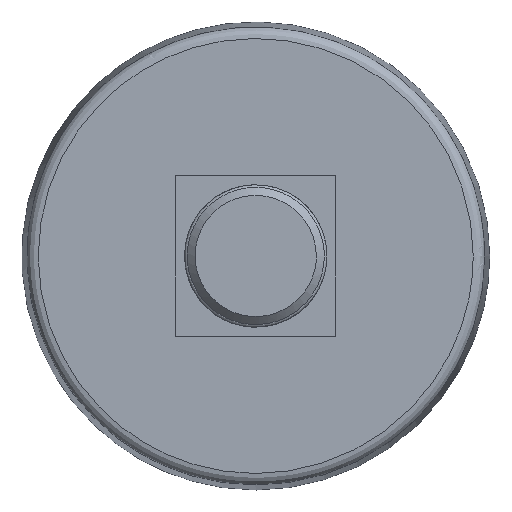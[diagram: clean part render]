
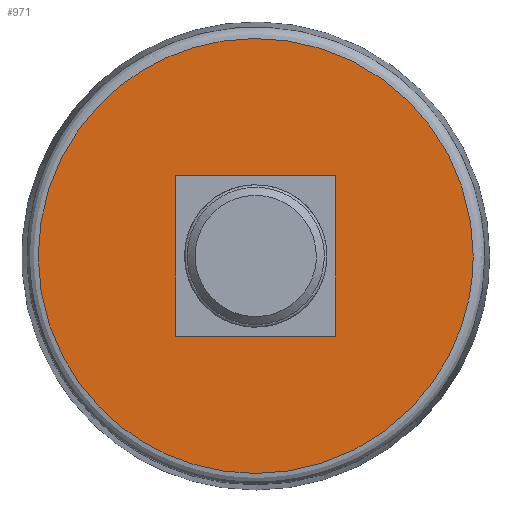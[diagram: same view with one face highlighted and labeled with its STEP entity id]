
A CAD part, front view. The second image highlights one B-rep face of the part: STEP entity #971.
In plain terms, the highlighted free-form (B-spline) face has degree [1, 1] with [2, 2] control points.
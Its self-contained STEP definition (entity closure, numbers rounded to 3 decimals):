
#590=CARTESIAN_POINT('V17',(-6.744,-47.477,
   7.0));
#591=VERTEX_POINT('V17',#590);
#592=CARTESIAN_POINT('V19',(7.256,-47.477,
   7.0));
#593=VERTEX_POINT('V19',#592);
#594=CARTESIAN_POINT('E27',(-6.744,-47.477,
   7.0));
#595=CARTESIAN_POINT('E27',(7.256,-47.477,
   7.0));
#596=QUASI_UNIFORM_CURVE('E27',1,(#594,#595),.POLYLINE_FORM.,.F.,.U.
   );
#597=EDGE_CURVE('E27',#591,#593,#596,.T.);
#626=CARTESIAN_POINT('V21',(7.256,-47.477,
   -7.0));
#627=VERTEX_POINT('V21',#626);
#628=CARTESIAN_POINT('V15',(-6.744,-47.477,
   -7.0));
#629=VERTEX_POINT('V15',#628);
#630=CARTESIAN_POINT('E31',(7.256,-47.477,
   -7.0));
#631=CARTESIAN_POINT('E31',(-6.744,-47.477,
   -7.0));
#632=QUASI_UNIFORM_CURVE('E31',1,(#630,#631),.POLYLINE_FORM.,.F.,.U.
   );
#633=EDGE_CURVE('E31',#627,#629,#632,.T.);
#662=CARTESIAN_POINT('E25',(-6.744,-47.477,
   -7.0));
#663=CARTESIAN_POINT('E25',(-6.744,-47.477,
   7.0));
#664=QUASI_UNIFORM_CURVE('E25',1,(#662,#663),.POLYLINE_FORM.,.F.,.U.
   );
#665=EDGE_CURVE('E25',#629,#591,#664,.T.);
#916=CARTESIAN_POINT('V9',(19.277,-47.477,
   0.0));
#917=VERTEX_POINT('V9',#916);
#933=CARTESIAN_POINT('E14',(19.277,-47.477,
   0.0));
#934=CARTESIAN_POINT('E14',(19.277,-47.477,
   32.944));
#935=CARTESIAN_POINT('E14',(-9.254,-47.477,
   16.472));
#936=CARTESIAN_POINT('E14',(-37.784,-47.477,
   0.));
#937=CARTESIAN_POINT('E14',(-9.254,-47.477,
   -16.472));
#938=CARTESIAN_POINT('E14',(19.277,-47.477,
   -32.944));
#939=CARTESIAN_POINT('E14',(19.277,-47.477,
   0.0));
#947=(BOUNDED_CURVE()B_SPLINE_CURVE(2,(#933,#934,#935,#936,#937,
   #938,#939),.CIRCULAR_ARC.,.T.,.U.)B_SPLINE_CURVE_WITH_KNOTS((3,
   2,2,3),(0.0,34.86,69.721,
   104.581),.UNSPECIFIED.)CURVE()
   GEOMETRIC_REPRESENTATION_ITEM()RATIONAL_B_SPLINE_CURVE((1.0,
   0.5,1.0,0.5,1.0,0.5,1.0)
   )REPRESENTATION_ITEM('E14'));
#948=EDGE_CURVE('E14',#917,#917,#947,.T.);
#953=CARTESIAN_POINT('F15',(21.179,-47.477,
   -20.922));
#954=CARTESIAN_POINT('F15',(21.179,-47.477,
   20.922));
#955=CARTESIAN_POINT('F15',(-20.666,-47.477,
   -20.922));
#956=CARTESIAN_POINT('F15',(-20.666,-47.477,
   20.922));
#957=QUASI_UNIFORM_SURFACE('F15',1,1,((#953,#955),(#954,#956)),
   .PLANE_SURF.,.F.,.F.,.U.);
#958=ORIENTED_EDGE('F7',*,*,#948,.T.);
#959=EDGE_LOOP('F15',(#958));
#960=FACE_OUTER_BOUND('F15',#959,.T.);
#961=ORIENTED_EDGE('E25',*,*,#665,.T.);
#962=ORIENTED_EDGE('E27',*,*,#597,.T.);
#963=CARTESIAN_POINT('E29',(7.256,-47.477,
   7.0));
#964=CARTESIAN_POINT('E29',(7.256,-47.477,
   -7.0));
#965=QUASI_UNIFORM_CURVE('E29',1,(#963,#964),.POLYLINE_FORM.,.F.,.U.
   );
#966=EDGE_CURVE('E29',#593,#627,#965,.T.);
#967=ORIENTED_EDGE('E29',*,*,#966,.T.);
#968=ORIENTED_EDGE('E31',*,*,#633,.T.);
#969=EDGE_LOOP('F15',(#961,#962,#967,#968));
#970=FACE_BOUND('F15',#969,.T.);
#971=ADVANCED_FACE('F15',(#960,#970),#957,.T.);
